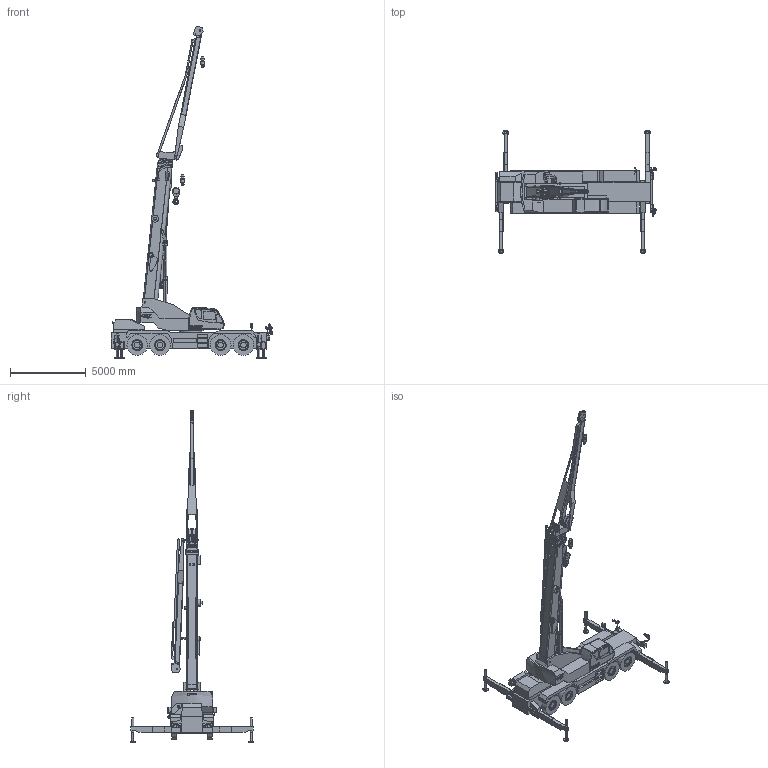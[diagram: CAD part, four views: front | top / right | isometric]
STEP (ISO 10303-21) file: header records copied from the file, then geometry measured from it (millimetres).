
FILE_DESCRIPTION(('CATIA V5 STEP'),'2;1');
FILE_NAME('S:\CDUPチーム\玉井\CADデータ\2_問い合わせ\GR-700N-2 HPモデル差替(OR幅ミス)\GR-700N-2_AP203iso.stp','2022-11-28T02:04:31+00:00',('TDN'),('TADANO'),'CATIA Version 5-6 Release 2018 SP2 HF38','CATIA V5 STEP AP203','none');
FILE_SCHEMA(('CONFIG_CONTROL_DESIGN'));
Products named in the file (9): GR-700N-2; GR-700N-2_BOOM; GR-700N-2_OUTRIGGER_FRONT_right; GR-700N-2_OUTRIGGER_FRONT_left; GR-700N-2_OUTRIGGER_REAR_right; GR-700N-2_OUTRIGGER_REAR_left; GR-700N-2_JIB_SOUKOU; GR-700N-2_JIB_HARIDASHI; GR-700N-2_BOOMHOOK
Assembly tree (49 placements, depth 3):
  GR-700N-2
    #57
    GR-700N-2_BOOM
      #55605
      #73367
      #74450
      #75533
      #76616
      #77699
      #79979
    #80550
    #104037
    #104838
    #105572
    #109761
    #112307
    #120537
    GR-700N-2_OUTRIGGER_FRONT_right
      #123722
      #124033
      #124339
    GR-700N-2_OUTRIGGER_FRONT_left
      #123722
      #124033
      #124339
    GR-700N-2_OUTRIGGER_REAR_right
      #123722
      #124033
      #124339
    GR-700N-2_OUTRIGGER_REAR_left
      #123722
      #124339
      #124033
    GR-700N-2_JIB_SOUKOU
      #124786
      #126065
      #126376
      #127286
      #127469
    GR-700N-2_JIB_HARIDASHI
      #124786
      #126065
      #126376
      #127286
      #127469
    GR-700N-2_BOOMHOOK
      #128408
      #133539
    #133878  x2
Bounding box: 10661.02 x 8160 x 21861.11 mm (x, y, z)
Volume: 40236366783.1 mm3; surface area: 662543434.9 mm2
Topology: 134 solids, 134 shells, 3309 faces, 8555 edges, 5636 vertices
Faces by surface type: plane 2004, cylinder 637, extrusion 554, torus 80, bspline 18, sphere 10, cone 4, revolution 2
Entity records: 138293 total; most frequent: CARTESIAN_POINT 69490, ORIENTED_EDGE 15566, DIRECTION 10572, EDGE_CURVE 7783, VECTOR 5692, VERTEX_POINT 5140, LINE 5138, EDGE_LOOP 3265
